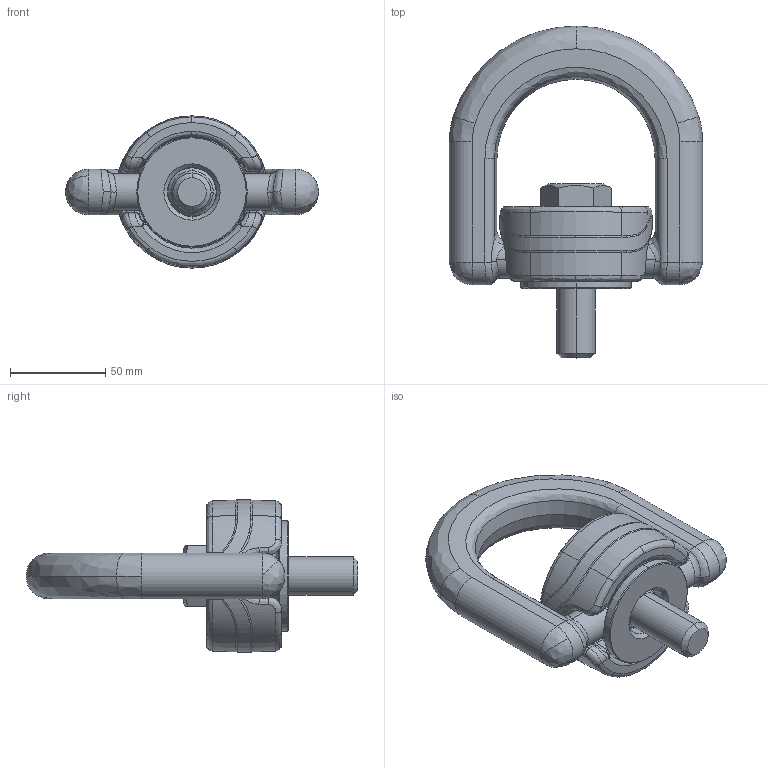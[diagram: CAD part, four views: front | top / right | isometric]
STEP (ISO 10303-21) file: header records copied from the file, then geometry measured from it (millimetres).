
FILE_DESCRIPTION (( 'STEP AP203' ), '1' );
FILE_NAME ('Z101720.step', '2016-04-04T11:12:50', ( '' ), ( '' ), 'SwSTEP 2.0', 'SolidWorks 2008', '' );
FILE_SCHEMA (( 'CONFIG_CONTROL_DESIGN' ));
Length unit declared in the file: millimetre
Products named in the file (6): Z768073; Z768029_SMITT; Z7681220; Z776043; Z101720; Z768659
Assembly tree (5 placements, depth 2):
  Z101720
    Z776043
    Z768659
    Z768073
    Z768029_SMITT
    Z7681220
Bounding box: 133 x 174.35 x 80 mm (x, y, z)
Volume: 362443.2 mm3; surface area: 72044.8 mm2
Topology: 5 solids, 5 shells, 389 faces, 941 edges, 565 vertices
Faces by surface type: bspline 252, cylinder 61, plane 51, cone 25
Entity records: 31328 total; most frequent: CARTESIAN_POINT 23852, ORIENTED_EDGE 1874, EDGE_CURVE 937, DIRECTION 848, VERTEX_POINT 565, B_SPLINE_CURVE_WITH_KNOTS 435, EDGE_LOOP 400, FACE_OUTER_BOUND 389
